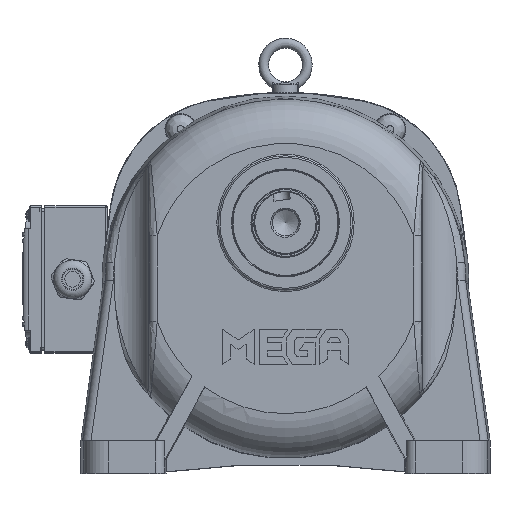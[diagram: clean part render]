
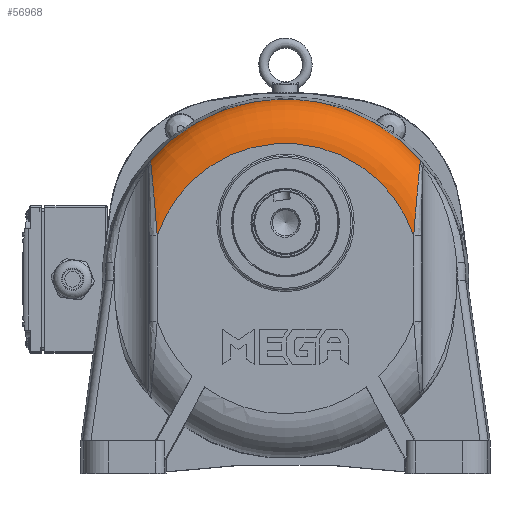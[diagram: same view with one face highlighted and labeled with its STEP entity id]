
A CAD part, top view. The second image highlights one B-rep face of the part: STEP entity #56968.
In plain terms, the highlighted toroidal (fillet/blend) face has major radius 82.608 mm and minor radius 27 mm.
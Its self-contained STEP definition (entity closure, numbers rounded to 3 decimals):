
#729=TOROIDAL_SURFACE('',#61719,82.608,27.);
#10113=FACE_OUTER_BOUND('',#13578,.T.);
#13578=EDGE_LOOP('',(#42402,#42403,#42404,#42405,#42406,#42407));
#17119=CIRCLE('',#61720,109.599);
#17120=CIRCLE('',#61721,82.608);
#19577=B_SPLINE_CURVE_WITH_KNOTS('',3,(#98888,#98889,#98890,#98891,#98892,
#98893,#98894,#98895,#98896),.UNSPECIFIED.,.F.,.F.,(4,1,1,1,1,1,4),(-4.523,
-3.23,-2.584,-1.615,-1.292,
-0.646,0.),.UNSPECIFIED.);
#19578=B_SPLINE_CURVE_WITH_KNOTS('',3,(#98919,#98920,#98921,#98922,#98923),
 .UNSPECIFIED.,.F.,.F.,(4,1,4),(-0.729,-0.416,0.),
 .UNSPECIFIED.);
#19584=B_SPLINE_CURVE_WITH_KNOTS('',3,(#99056,#99057,#99058,#99059,#99060,
#99061,#99062,#99063),.UNSPECIFIED.,.F.,.F.,(4,1,1,1,1,4),(-14.257,
-13.611,-12.965,-11.673,-11.027,
-9.735),.UNSPECIFIED.);
#19585=B_SPLINE_CURVE_WITH_KNOTS('',3,(#99065,#99066,#99067,#99068,#99069),
 .UNSPECIFIED.,.F.,.F.,(4,1,4),(-0.728,-0.312,0.),
 .UNSPECIFIED.);
#23713=VERTEX_POINT('',#98830);
#23714=VERTEX_POINT('',#98887);
#23715=VERTEX_POINT('',#98918);
#23722=VERTEX_POINT('',#99054);
#23723=VERTEX_POINT('',#99055);
#23724=VERTEX_POINT('',#99064);
#30320=EDGE_CURVE('',#23713,#23714,#19577,.T.);
#30322=EDGE_CURVE('',#23714,#23715,#19578,.T.);
#30335=EDGE_CURVE('',#23722,#23723,#19584,.T.);
#30336=EDGE_CURVE('',#23724,#23722,#19585,.T.);
#30337=EDGE_CURVE('',#23715,#23724,#17119,.F.);
#30338=EDGE_CURVE('',#23713,#23723,#17120,.T.);
#42402=ORIENTED_EDGE('',*,*,#30335,.F.);
#42403=ORIENTED_EDGE('',*,*,#30336,.F.);
#42404=ORIENTED_EDGE('',*,*,#30337,.F.);
#42405=ORIENTED_EDGE('',*,*,#30322,.F.);
#42406=ORIENTED_EDGE('',*,*,#30320,.F.);
#42407=ORIENTED_EDGE('',*,*,#30338,.T.);
#56968=ADVANCED_FACE('',(#10113),#729,.T.);
#61719=AXIS2_PLACEMENT_3D('',#99053,#72113,#72114);
#61720=AXIS2_PLACEMENT_3D('',#99070,#72115,#72116);
#61721=AXIS2_PLACEMENT_3D('',#99071,#72117,#72118);
#72113=DIRECTION('center_axis',(0.,0.,-1.));
#72114=DIRECTION('ref_axis',(-1.,0.,0.));
#72115=DIRECTION('center_axis',(0.,0.,1.));
#72116=DIRECTION('ref_axis',(-1.,0.,0.));
#72117=DIRECTION('center_axis',(0.,0.,-1.));
#72118=DIRECTION('ref_axis',(-1.,0.,0.));
#98830=CARTESIAN_POINT('',(-54.454,21.95,58.75));
#98887=CARTESIAN_POINT('',(-58.282,65.871,41.011));
#98888=CARTESIAN_POINT('Ctrl Pts',(-54.454,21.95,58.75));
#98889=CARTESIAN_POINT('Ctrl Pts',(-54.747,26.361,58.75));
#98890=CARTESIAN_POINT('Ctrl Pts',(-55.266,33.058,58.533));
#98891=CARTESIAN_POINT('Ctrl Pts',(-56.147,43.336,56.852));
#98892=CARTESIAN_POINT('Ctrl Pts',(-56.76,50.134,54.699));
#98893=CARTESIAN_POINT('Ctrl Pts',(-57.357,56.587,51.259));
#98894=CARTESIAN_POINT('Ctrl Pts',(-57.831,61.575,47.509));
#98895=CARTESIAN_POINT('Ctrl Pts',(-58.152,64.715,43.334));
#98896=CARTESIAN_POINT('Ctrl Pts',(-58.282,65.871,41.011));
#98918=CARTESIAN_POINT('',(-59.594,66.843,32.457));
#98919=CARTESIAN_POINT('Ctrl Pts',(-58.282,65.871,41.011));
#98920=CARTESIAN_POINT('Ctrl Pts',(-58.345,66.429,39.889));
#98921=CARTESIAN_POINT('Ctrl Pts',(-58.598,67.415,37.053));
#98922=CARTESIAN_POINT('Ctrl Pts',(-59.191,67.254,34.021));
#98923=CARTESIAN_POINT('Ctrl Pts',(-59.594,66.843,32.457));
#99053=CARTESIAN_POINT('Origin',(23.935,-4.113,31.75));
#99054=CARTESIAN_POINT('',(106.152,65.871,41.011));
#99055=CARTESIAN_POINT('',(102.323,21.95,58.75));
#99056=CARTESIAN_POINT('Ctrl Pts',(106.152,65.871,41.011));
#99057=CARTESIAN_POINT('Ctrl Pts',(106.022,64.716,43.334));
#99058=CARTESIAN_POINT('Ctrl Pts',(105.701,61.586,47.497));
#99059=CARTESIAN_POINT('Ctrl Pts',(104.945,53.614,53.495));
#99060=CARTESIAN_POINT('Ctrl Pts',(104.112,44.445,56.674));
#99061=CARTESIAN_POINT('Ctrl Pts',(103.141,33.125,58.524));
#99062=CARTESIAN_POINT('Ctrl Pts',(102.617,26.365,58.75));
#99063=CARTESIAN_POINT('Ctrl Pts',(102.323,21.95,58.75));
#99064=CARTESIAN_POINT('',(107.463,66.843,32.457));
#99065=CARTESIAN_POINT('Ctrl Pts',(107.463,66.843,32.457));
#99066=CARTESIAN_POINT('Ctrl Pts',(107.061,67.254,34.021));
#99067=CARTESIAN_POINT('Ctrl Pts',(106.474,67.42,37.013));
#99068=CARTESIAN_POINT('Ctrl Pts',(106.215,66.429,39.889));
#99069=CARTESIAN_POINT('Ctrl Pts',(106.152,65.871,41.011));
#99070=CARTESIAN_POINT('Origin',(23.935,-4.113,32.457));
#99071=CARTESIAN_POINT('Origin',(23.935,-4.113,58.75));
